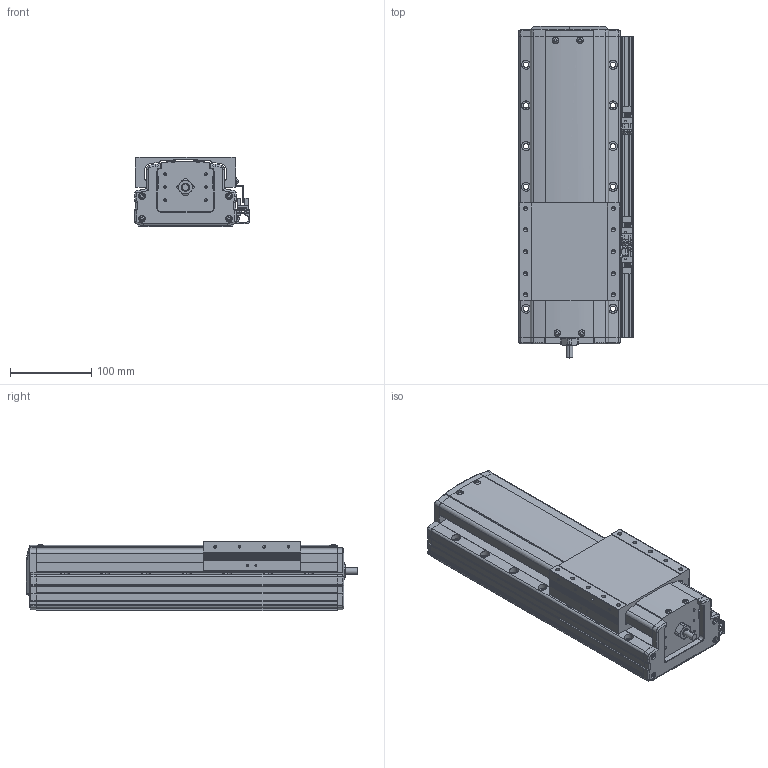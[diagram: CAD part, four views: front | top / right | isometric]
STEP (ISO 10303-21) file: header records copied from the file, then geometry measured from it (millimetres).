
FILE_DESCRIPTION(('STEP AP214'),'1');
FILE_NAME('Z:/Web/3D/PSA125/STP/PSA125-150 (3D)/PSA125ㅁㅁ-150+3SR.stp','2014-06-20T08:49:26',(' '),(' '),'Spatial InterOp 3D',' ',' ');
FILE_SCHEMA(('automotive_design'));
Length unit declared in the file: millimetre
Products named in the file (36): 스크루 : Round - M4.0 x 10.0; RRCV-PA120; SLIDE; BASE; FRCV-PA120-1(기준 뿔 제거); RR1500; 스크루 : Round - M4.0 x 6.0; 너트 : Square - M10.0 x 220.7419; EE-SX674; SBK-SX674-352; 스크루 : Round - M3.0 x 6.0; M3.0 x 6.0; SRL-16x17-380L; SGD-PA95; 스크루 : Round - M3.0 x 8.0
Bounding box: 141 x 408.1 x 86 mm (x, y, z)
Volume: 3379594 mm3; surface area: 379448.1 mm2
Topology: 36 solids, 36 shells, 2295 faces, 6137 edges, 3952 vertices
Faces by surface type: plane 1359, cylinder 624, cone 204, sphere 52, bspline 31, torus 25
Entity records: 92033 total; most frequent: CARTESIAN_POINT 15088, DIRECTION 12175, ORIENTED_EDGE 12062, EDGE_CURVE 6031, LINE 4167, VECTOR 4167, AXIS2_PLACEMENT_3D 4004, VERTEX_POINT 3952
